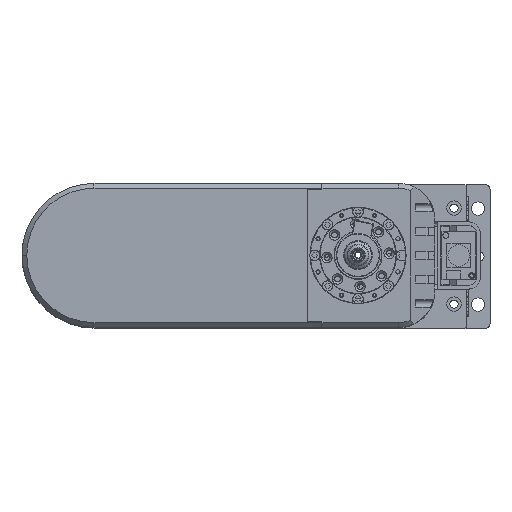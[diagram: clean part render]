
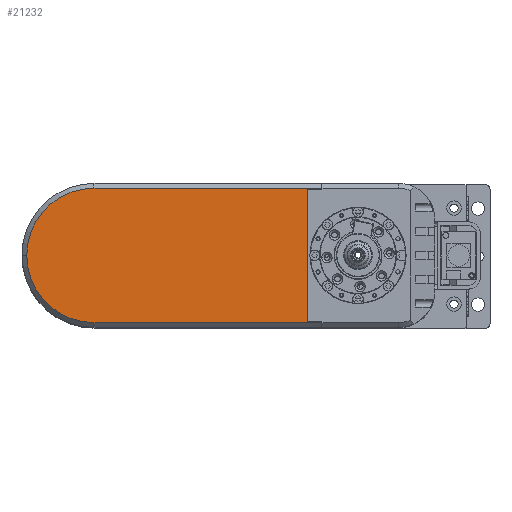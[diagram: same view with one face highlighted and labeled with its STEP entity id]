
A CAD part, top view. The second image highlights one B-rep face of the part: STEP entity #21232.
In plain terms, the highlighted planar face has unit normal (0, 0, 1).
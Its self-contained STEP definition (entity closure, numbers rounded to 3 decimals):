
#256 = CARTESIAN_POINT ( 'NONE',  ( 112.14, 362.215, 260.5 ) ) ;
#261 = DIRECTION ( 'NONE',  ( -1., 0., 0. ) ) ;
#494 = CARTESIAN_POINT ( 'NONE',  ( 112.14, 361.815, 260.5 ) ) ;
#2028 = VERTEX_POINT ( 'NONE', #62923 ) ;
#3109 = LINE ( 'NONE', #34274, #18160 ) ;
#8426 = LINE ( 'NONE', #256, #33359 ) ;
#10923 = VECTOR ( 'NONE', #105215, 1000. ) ;
#13854 = VERTEX_POINT ( 'NONE', #70173 ) ;
#15342 = VERTEX_POINT ( 'NONE', #28040 ) ;
#15907 = VECTOR ( 'NONE', #44817, 1000. ) ;
#17117 = EDGE_CURVE ( 'NONE', #90193, #107771, #3109, .T. ) ;
#18160 = VECTOR ( 'NONE', #27668, 1000. ) ;
#19185 = DIRECTION ( 'NONE',  ( -1., 0., 0. ) ) ;
#21232 = ADVANCED_FACE ( 'NONE', ( #43203 ), #93931, .F. ) ;
#21629 = ORIENTED_EDGE ( 'NONE', *, *, #80654, .T. ) ;
#22044 = EDGE_CURVE ( 'NONE', #75180, #107771, #87093, .T. ) ;
#22619 = CARTESIAN_POINT ( 'NONE',  ( 17.14, 334.215, 260.5 ) ) ;
#24495 = DIRECTION ( 'NONE',  ( -1., 0., 0. ) ) ;
#26895 = AXIS2_PLACEMENT_3D ( 'NONE', #22619, #49872, #261 ) ;
#27144 = AXIS2_PLACEMENT_3D ( 'NONE', #35550, #44286, #19185 ) ;
#27668 = DIRECTION ( 'NONE',  ( 0., -1., 0. ) ) ;
#28040 = CARTESIAN_POINT ( 'NONE',  ( 112.14, 361.815, 260.5 ) ) ;
#29548 = EDGE_CURVE ( 'NONE', #13854, #2028, #53014, .T. ) ;
#29801 = DIRECTION ( 'NONE',  ( 1., 0., 0. ) ) ;
#30466 = LINE ( 'NONE', #71938, #10923 ) ;
#31874 = EDGE_CURVE ( 'NONE', #78009, #15342, #95012, .T. ) ;
#32253 = CARTESIAN_POINT ( 'NONE',  ( 17.14, 334.215, 260.5 ) ) ;
#33359 = VECTOR ( 'NONE', #90826, 1000. ) ;
#33397 = EDGE_CURVE ( 'NONE', #2028, #90193, #30466, .T. ) ;
#33615 = CARTESIAN_POINT ( 'NONE',  ( 17.14, 362.215, 260.5 ) ) ;
#34274 = CARTESIAN_POINT ( 'NONE',  ( 112.14, 364.215, 260.5 ) ) ;
#35077 = ORIENTED_EDGE ( 'NONE', *, *, #96630, .T. ) ;
#35550 = CARTESIAN_POINT ( 'NONE',  ( 112.14, 364.215, 260.5 ) ) ;
#40484 = CARTESIAN_POINT ( 'NONE',  ( -10.86, 334.215, 260.5 ) ) ;
#43203 = FACE_OUTER_BOUND ( 'NONE', #91422, .T. ) ;
#43563 = ORIENTED_EDGE ( 'NONE', *, *, #29548, .F. ) ;
#44286 = DIRECTION ( 'NONE',  ( 0., 0., -1. ) ) ;
#44817 = DIRECTION ( 'NONE',  ( 0., -1., 0. ) ) ;
#45443 = ORIENTED_EDGE ( 'NONE', *, *, #86744, .F. ) ;
#49282 = ORIENTED_EDGE ( 'NONE', *, *, #33397, .F. ) ;
#49872 = DIRECTION ( 'NONE',  ( 0., 0., 1. ) ) ;
#52718 = ORIENTED_EDGE ( 'NONE', *, *, #22044, .T. ) ;
#53014 = LINE ( 'NONE', #86309, #15907 ) ;
#53521 = CARTESIAN_POINT ( 'NONE',  ( 112.14, 364.215, 260.5 ) ) ;
#58881 = VERTEX_POINT ( 'NONE', #33615 ) ;
#62701 = VERTEX_POINT ( 'NONE', #40484 ) ;
#62923 = CARTESIAN_POINT ( 'NONE',  ( 106.14, 306.615, 260.5 ) ) ;
#63101 = CARTESIAN_POINT ( 'NONE',  ( 112.14, 306.215, 260.5 ) ) ;
#68943 = AXIS2_PLACEMENT_3D ( 'NONE', #32253, #89016, #90639 ) ;
#70173 = CARTESIAN_POINT ( 'NONE',  ( 106.14, 361.815, 260.5 ) ) ;
#71938 = CARTESIAN_POINT ( 'NONE',  ( 112.14, 306.615, 260.5 ) ) ;
#72538 = EDGE_CURVE ( 'NONE', #62701, #75180, #95095, .T. ) ;
#73772 = CARTESIAN_POINT ( 'NONE',  ( 112.14, 306.615, 260.5 ) ) ;
#75180 = VERTEX_POINT ( 'NONE', #101139 ) ;
#75247 = LINE ( 'NONE', #494, #107587 ) ;
#75676 = CIRCLE ( 'NONE', #26895, 28. ) ;
#78009 = VERTEX_POINT ( 'NONE', #79772 ) ;
#78634 = DIRECTION ( 'NONE',  ( 0., -1., 0. ) ) ;
#79772 = CARTESIAN_POINT ( 'NONE',  ( 112.14, 362.215, 260.5 ) ) ;
#80654 = EDGE_CURVE ( 'NONE', #58881, #62701, #75676, .T. ) ;
#86309 = CARTESIAN_POINT ( 'NONE',  ( 106.14, 364.215, 260.5 ) ) ;
#86744 = EDGE_CURVE ( 'NONE', #15342, #13854, #75247, .T. ) ;
#87093 = LINE ( 'NONE', #95819, #90002 ) ;
#89016 = DIRECTION ( 'NONE',  ( 0., 0., 1. ) ) ;
#89323 = ORIENTED_EDGE ( 'NONE', *, *, #17117, .F. ) ;
#90002 = VECTOR ( 'NONE', #29801, 1000. ) ;
#90193 = VERTEX_POINT ( 'NONE', #73772 ) ;
#90639 = DIRECTION ( 'NONE',  ( -1., 0., 0. ) ) ;
#90826 = DIRECTION ( 'NONE',  ( -1., 0., 0. ) ) ;
#91422 = EDGE_LOOP ( 'NONE', ( #49282, #43563, #45443, #106007, #35077, #21629, #102832, #52718, #89323 ) ) ;
#93931 = PLANE ( 'NONE',  #27144 ) ;
#94341 = VECTOR ( 'NONE', #78634, 1000. ) ;
#95012 = LINE ( 'NONE', #53521, #94341 ) ;
#95095 = CIRCLE ( 'NONE', #68943, 28. ) ;
#95819 = CARTESIAN_POINT ( 'NONE',  ( 112.14, 306.215, 260.5 ) ) ;
#96630 = EDGE_CURVE ( 'NONE', #78009, #58881, #8426, .T. ) ;
#101139 = CARTESIAN_POINT ( 'NONE',  ( 17.14, 306.215, 260.5 ) ) ;
#102832 = ORIENTED_EDGE ( 'NONE', *, *, #72538, .T. ) ;
#105215 = DIRECTION ( 'NONE',  ( 1., 0., 0. ) ) ;
#106007 = ORIENTED_EDGE ( 'NONE', *, *, #31874, .F. ) ;
#107587 = VECTOR ( 'NONE', #24495, 1000. ) ;
#107771 = VERTEX_POINT ( 'NONE', #63101 ) ;
